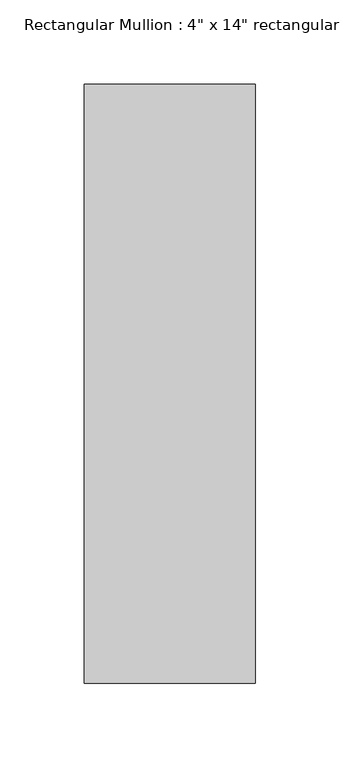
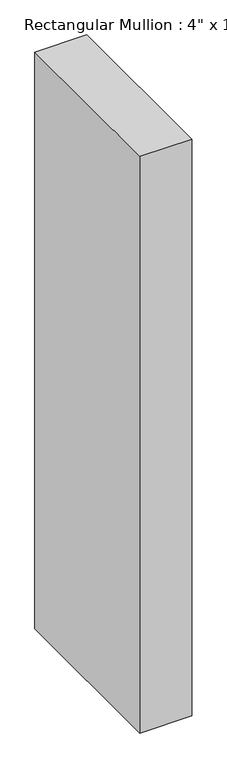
"""IFC4 building model written with IfcOpenShell, lengths in millimetres: member geometry."""

from ifc_helpers import new_model, si_unit, frame, origin, place, context, project, spatial, polyline, outline, extrude, source, transform, mapped, element, save


def member_3bdb7d3e(model_context):
    return source(origin(), model_context, "Body", "SweptSolid", [
        extrude(outline(polyline([(50.8, 342.9), (50.8, -12.7), (-50.8, -12.7), (-50.8, 342.9), (50.8, 342.9)])), frame((0.0, 0.0, -1193.8), z_axis=(0.0, 0.0, 1.0), x_axis=(1.0, 0.0, 0.0)), (0.0, 0.0, 1.0), 1193.8),
    ])


if __name__ == "__main__":
    model = new_model("IFC4")
    model_context = context("Model", 3, world=origin())
    ifc_project = project(units=[si_unit("LENGTHUNIT", "METRE", prefix="MILLI")], contexts=[model_context])
    site = spatial("IfcSite", under=ifc_project)
    building = spatial("IfcBuilding", under=site)
    placement = place(None, origin())
    member_shape = member_3bdb7d3e(model_context)
    element("IfcMember", 1, ObjectType="Rectangular Mullion : 4\" x 14\" rectangular", at=placement, inside=building, context=model_context, shape_type="MappedRepresentation", body=[
        mapped(member_shape, transform((0.0, 0.0, 0.0), x_axis=(1.0, 0.0, 0.0), y_axis=(0.0, 1.0, 0.0), z_axis=(0.0, 0.0, 1.0))),
    ])
    save(model, "model.ifc")
